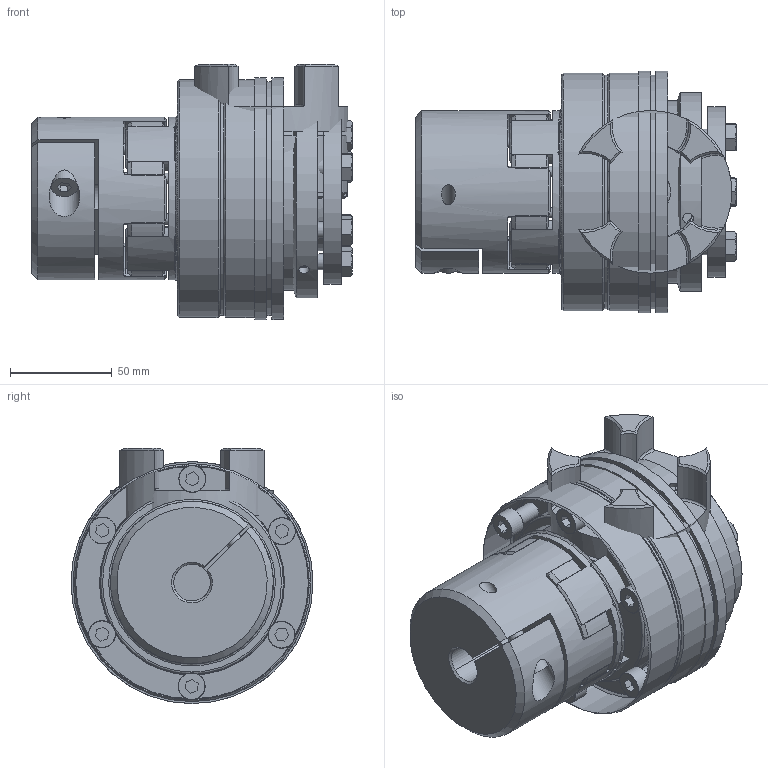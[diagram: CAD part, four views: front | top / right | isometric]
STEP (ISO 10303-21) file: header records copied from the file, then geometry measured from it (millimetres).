
FILE_DESCRIPTION( ( 'Unknown' ), '1' );
FILE_NAME( 'C:/Dokumente und Einstellungen/Sven/Desktop/hp kbk/E-KI/KBK EKI-38-151.stp', 'Unknown', ( 'Unknown' ), ( 'Unknown' ), 'XStep 1.0', 'Unknown', ' ' );
FILE_SCHEMA( ( 'automotive_design' ) );
Length unit declared in the file: millimetre
Products named in the file (17): Assem1; Assem2; Assem3; Zylinderschraube DIN 912_3; ball_bearing_-_6011_0_01_0; ball_bearing_-_6011_0_02_0; ball_bearing_-_6011_0_03_0; Kupplung L-I-300 Grundkörper_0; Konusbuchse 300_0; Stellring 300_0; Druckring 300_0; Flansch 300_0; a_55_0; din_en_24017_m8x30_0; Elastomerflansch 38_0; Zahnkranz_38_Standard_0; KBE 2 - 38_Nabe
Bounding box: 157.5 x 119 x 125.5 mm (x, y, z)
Volume: 1835672.3 mm3; surface area: 529196.3 mm2
Topology: 43 solids, 43 shells, 1060 faces, 2396 edges, 1515 vertices
Faces by surface type: plane 363, cylinder 340, cone 297, torus 60
Full cylindrical faces by diameter (mm): 2.5 x4, 3.242 x6, 5 x16, 5.2 x6, 6.647 x30, 6.8 x2, 8 x16, 8.2 x12, 8.5 x12, 9 x2, 11.63 x7, 13 x9, 13.2 x12, 15 x2, 18 x2, 25 x4, 38 x4, 40 x2, 52 x4, 55 x7, 66.3 x6, 76 x6, 79.1 x6, 80 x4, 83.5 x2, 84 x2, 88 x2, 90 x7, 98 x2, 98.5 x2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
Entity records: 12280 total; most frequent: CARTESIAN_POINT 2850, DIRECTION 2030, ORIENTED_EDGE 1584, AXIS2_PLACEMENT_3D 942, EDGE_CURVE 792, EDGE_LOOP 650, VERTEX_POINT 568, FACE_OUTER_BOUND 522
